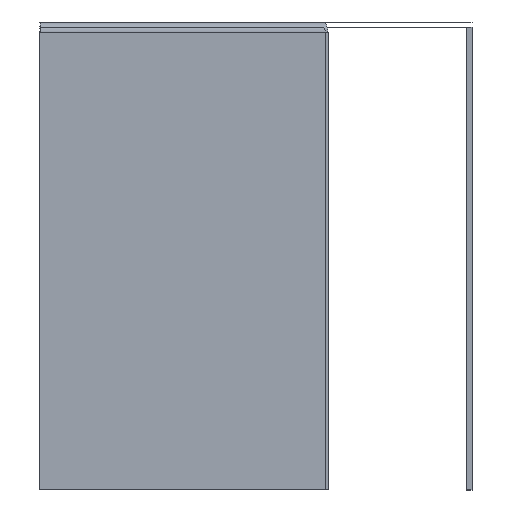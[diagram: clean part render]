
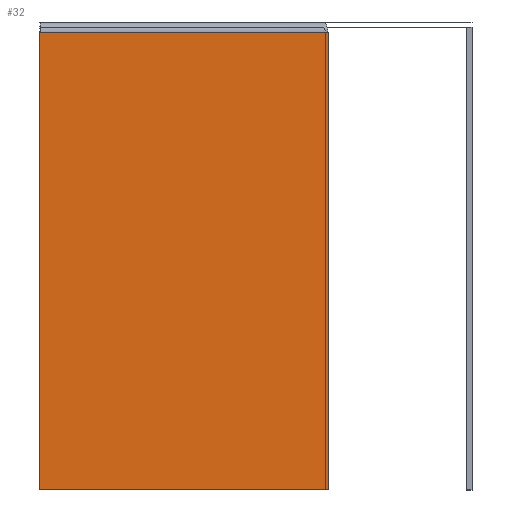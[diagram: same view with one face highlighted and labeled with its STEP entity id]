
A CAD part, left-side view. The second image highlights one B-rep face of the part: STEP entity #32.
In plain terms, the highlighted planar face has unit normal (-1, 0, 0).
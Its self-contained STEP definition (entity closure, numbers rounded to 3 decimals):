
#32=ADVANCED_FACE('',(#66),#523,.T.);
#66=FACE_OUTER_BOUND('',#100,.T.);
#100=EDGE_LOOP('',(#147,#148,#149,#150));
#147=ORIENTED_EDGE('',*,*,#291,.T.);
#148=ORIENTED_EDGE('',*,*,#289,.T.);
#149=ORIENTED_EDGE('',*,*,#294,.T.);
#150=ORIENTED_EDGE('',*,*,#290,.F.);
#289=EDGE_CURVE('',#467,#469,#434,.T.);
#290=EDGE_CURVE('',#468,#470,#373,.T.);
#291=EDGE_CURVE('',#468,#467,#374,.T.);
#294=EDGE_CURVE('',#469,#470,#375,.T.);
#373=B_SPLINE_CURVE_WITH_KNOTS('',1,(#785,#786),.UNSPECIFIED.,.F.,.F.,(2,
2),(0.,127.),.UNSPECIFIED.);
#374=B_SPLINE_CURVE_WITH_KNOTS('',1,(#787,#788),.UNSPECIFIED.,.F.,.F.,(2,
2),(-389.,-309.),.UNSPECIFIED.);
#375=B_SPLINE_CURVE_WITH_KNOTS('',1,(#795,#796),.UNSPECIFIED.,.F.,.F.,(2,
2),(309.,389.),.UNSPECIFIED.);
#434=(
BOUNDED_CURVE()
B_SPLINE_CURVE(1,(#783,#784),.UNSPECIFIED.,.F.,.F.)
B_SPLINE_CURVE_WITH_KNOTS((2,2),(0.,127.),.UNSPECIFIED.)
CURVE()
GEOMETRIC_REPRESENTATION_ITEM()
RATIONAL_B_SPLINE_CURVE((1.,1.))
REPRESENTATION_ITEM('')
);
#467=VERTEX_POINT('',#743);
#468=VERTEX_POINT('',#744);
#469=VERTEX_POINT('',#745);
#470=VERTEX_POINT('',#746);
#523=PLANE('',#646);
#646=AXIS2_PLACEMENT_3D('',#726,#685,$);
#685=DIRECTION('',(-1.,0.,0.));
#726=CARTESIAN_POINT('',(-8175.852,1990.598,0.));
#743=CARTESIAN_POINT('',(-8175.852,2299.598,0.));
#744=CARTESIAN_POINT('',(-8175.852,2379.598,0.));
#745=CARTESIAN_POINT('',(-8175.852,2299.598,127.));
#746=CARTESIAN_POINT('',(-8175.852,2379.598,127.));
#783=CARTESIAN_POINT('',(-8175.852,2299.598,0.));
#784=CARTESIAN_POINT('',(-8175.852,2299.598,127.));
#785=CARTESIAN_POINT('',(-8175.852,2379.598,0.));
#786=CARTESIAN_POINT('',(-8175.852,2379.598,127.));
#787=CARTESIAN_POINT('',(-8175.852,2379.598,0.));
#788=CARTESIAN_POINT('',(-8175.852,2299.598,0.));
#795=CARTESIAN_POINT('',(-8175.852,2299.598,127.));
#796=CARTESIAN_POINT('',(-8175.852,2379.598,127.));
